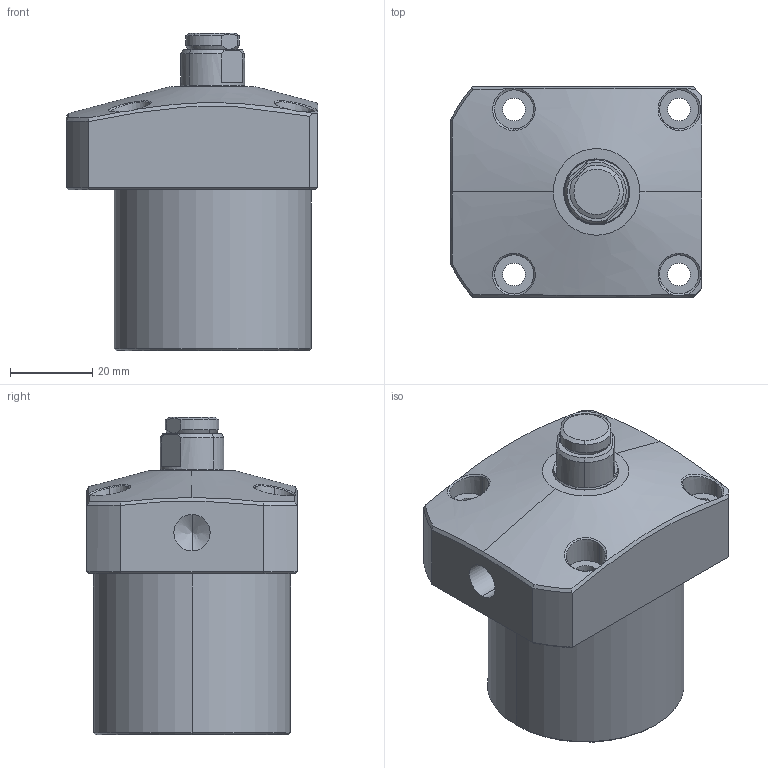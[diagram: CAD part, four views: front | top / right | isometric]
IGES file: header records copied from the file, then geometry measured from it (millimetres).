
Start section: SolidWorks IGES file using analytic representation for surfaces
Global section: file name: E:\FLANGE-WORK-SUPPORT-IGS MODEL\FW10-0482.IGS; native system: SolidWorks 2019; preprocessor: SolidWorks 2019; author: ADMIN; date: 200806.164651; units: millimetre
Bounding box: 61 x 51 x 77 mm (x, y, z)
Volume: 133283.8 mm3; surface area: 23703.5 mm2
Topology: 3 solids, 3 shells, 122 faces, 299 edges, 186 vertices
Faces by surface type: revolution 76, plane 35, bspline 11
